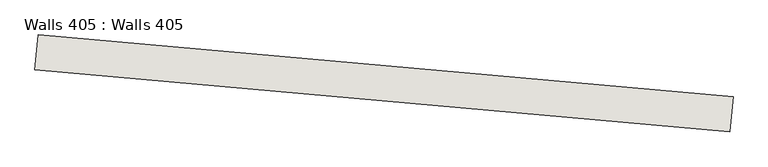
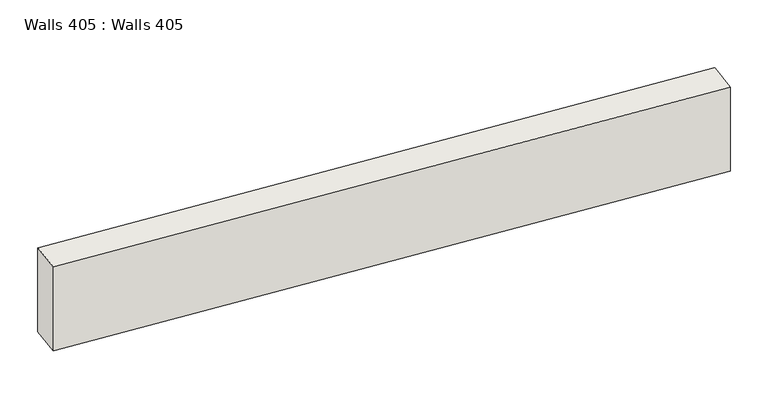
"""IFC4 building model written with IfcOpenShell, lengths in millimetres: wall geometry, Walls 405 : Walls 405."""

import ifcopenshell
import ifcopenshell.guid

model = None  # the IFC model being written
_history = None  # IfcOwnerHistory: only IFC2X3 demands one
_inside = {}  # id of a spatial element -> (the spatial element, [elements in it])
_under = {}  # id of a project, library or spatial element -> (it, [spatial elements below it])
_declared = {}  # id of a project -> (the project, [libraries it declares])
_typed = {}  # id of a type object -> (the type object, [elements of that type])
_made_of = {}  # id of a material, layer set ... -> (it, [elements and type objects made of it])


def new_model(schema):
    """Start an empty IFC model of exactly this schema.

    Asked for "IFC4X3", IfcOpenShell would pick the latest addendum, in which some entities
    have other attributes; the version numbers below select the first issue.
    IFC2X3 requires an IfcOwnerHistory on every rooted entity: one is made here for all.
    """
    global model, _history
    if schema == "IFC4X3":
        model = ifcopenshell.file(schema_version=(4, 3, 0, 0))
    else:
        model = ifcopenshell.file(schema=schema)
    _inside.clear()
    _under.clear()
    _declared.clear()
    _typed.clear()
    _made_of.clear()
    _history = None
    if model.schema == "IFC2X3":
        org = make("IfcOrganization", Name="unknown")
        user = make(
            "IfcPersonAndOrganization",
            ThePerson=make("IfcPerson", FamilyName="unknown"),
            TheOrganization=org,
        )
        app = make(
            "IfcApplication",
            ApplicationDeveloper=org,
            Version="unknown",
            ApplicationFullName="unknown",
            ApplicationIdentifier="unknown",
        )
        _history = make(
            "IfcOwnerHistory",
            OwningUser=user,
            OwningApplication=app,
            ChangeAction="ADDED",
            CreationDate=0,
        )
    return model


def make(cls, **values):
    """One entity of the class cls with the attributes given. An attribute that is None is left unset."""
    return model.create_entity(
        cls, **{name: value for name, value in values.items() if value is not None}
    )


def rooted(cls, **values):
    """An entity with a GlobalId (a new one), such as an element, a storey or a relation."""
    return make(cls, GlobalId=ifcopenshell.guid.new(), OwnerHistory=_history, **values)


def si_unit(unit_type, name, prefix=None):
    """IfcSIUnit, for example si_unit("LENGTHUNIT", "METRE", prefix="MILLI")."""
    return make("IfcSIUnit", UnitType=unit_type, Prefix=prefix, Name=name)


def assignment(units):
    """IfcUnitAssignment: the units of a project."""
    return None if units is None else make("IfcUnitAssignment", Units=units)


def point(xyz):
    """IfcCartesianPoint."""
    return None if xyz is None else make("IfcCartesianPoint", Coordinates=xyz)


def direction(xyz):
    """IfcDirection."""
    return None if xyz is None else make("IfcDirection", DirectionRatios=xyz)


def frame(location, z_axis=None, x_axis=None):
    """IfcAxis2Placement3D, a coordinate frame: its origin and axes. An axis left out is left unset."""
    return make(
        "IfcAxis2Placement3D",
        Location=point(location),
        Axis=direction(z_axis),
        RefDirection=direction(x_axis),
    )


def origin():
    """The frame at (0, 0, 0) with its axes left unset."""
    return frame((0.0, 0.0, 0.0))


def place(relative_to, where):
    """IfcLocalPlacement: puts the frame where relative to a parent placement (None: the world)."""
    return make(
        "IfcLocalPlacement", PlacementRelTo=relative_to, RelativePlacement=where
    )


def context(
    kind, dimensions, precision=None, world=None, true_north=None, identifier=None
):
    """IfcGeometricRepresentationContext, for example the 3D "Model" context."""
    return make(
        "IfcGeometricRepresentationContext",
        ContextIdentifier=identifier,
        ContextType=kind,
        CoordinateSpaceDimension=dimensions,
        Precision=precision,
        WorldCoordinateSystem=world,
        TrueNorth=true_north,
    )


def project(units=None, contexts=None):
    """IfcProject with its units and contexts."""
    return rooted(
        "IfcProject",
        Name="project",
        RepresentationContexts=contexts,
        UnitsInContext=assignment(units),
    )


def spatial(cls, under=None, at=None, **own):
    """A site, building, storey or space (cls), placed at a placement, below another one or the project."""
    s = rooted(cls, ObjectPlacement=at, **own)
    if under is not None:
        _under.setdefault(under.id(), (under, []))[1].append(s)
    return s


def polyline(points):
    """IfcPolyline through the points."""
    return make("IfcPolyline", Points=[point(p) for p in points])


def outline(outer, holes=None, kind="AREA"):
    """IfcArbitraryClosedProfileDef: a profile drawn as a closed curve; with holes, ...WithVoids."""
    if holes is None:
        return make("IfcArbitraryClosedProfileDef", ProfileType=kind, OuterCurve=outer)
    return make(
        "IfcArbitraryProfileDefWithVoids",
        ProfileType=kind,
        OuterCurve=outer,
        InnerCurves=holes,
    )


def extrude(swept, where, along, depth):
    """IfcExtrudedAreaSolid: the profile swept, set in the frame where, extruded along a direction by depth."""
    return make(
        "IfcExtrudedAreaSolid",
        SweptArea=swept,
        Position=where,
        ExtrudedDirection=direction(along),
        Depth=depth,
    )


def shape(context_of_items, identifier, shape_type, items):
    """IfcShapeRepresentation: the items that make up one representation, for example the "Body"."""
    return make(
        "IfcShapeRepresentation",
        ContextOfItems=context_of_items,
        RepresentationIdentifier=identifier,
        RepresentationType=shape_type,
        Items=items,
    )


def source(mapping_origin, context_of_items, identifier, shape_type, items):
    """IfcRepresentationMap: a shape defined once, which mapped items show again and again."""
    return make(
        "IfcRepresentationMap",
        MappingOrigin=mapping_origin,
        MappedRepresentation=shape(context_of_items, identifier, shape_type, items),
    )


def transform(
    local_origin,
    x_axis=None,
    y_axis=None,
    z_axis=None,
    scale=None,
    scale2=None,
    scale3=None,
    uniform=True,
):
    """IfcCartesianTransformationOperator3D, or its non-uniform kind. x_axis, y_axis, z_axis: its Axis1, 2, 3."""
    if uniform:
        return make(
            "IfcCartesianTransformationOperator3D",
            Axis1=direction(x_axis),
            Axis2=direction(y_axis),
            LocalOrigin=point(local_origin),
            Scale=scale,
            Axis3=direction(z_axis),
        )
    return make(
        "IfcCartesianTransformationOperator3DnonUniform",
        Axis1=direction(x_axis),
        Axis2=direction(y_axis),
        LocalOrigin=point(local_origin),
        Scale=scale,
        Axis3=direction(z_axis),
        Scale2=scale2,
        Scale3=scale3,
    )


def mapped(mapping_source, mapping_target):
    """IfcMappedItem: shows the shape of a source again, moved by a transform."""
    return make(
        "IfcMappedItem", MappingSource=mapping_source, MappingTarget=mapping_target
    )


def made_of(thing, what):
    """Note that an element or type object is made of a material, layer set ...; save() writes the relation."""
    if what is not None:
        _made_of.setdefault(what.id(), (what, []))[1].append(thing)
    return thing


def element(
    cls,
    number,
    at=None,
    inside=None,
    cuts=None,
    type_object=None,
    material=None,
    context=None,
    identifier="Body",
    shape_type=None,
    held_by="IfcProductDefinitionShape",
    body=None,
    shapes=None,
    **own,
):
    """One element of the class cls, such as IfcWall. Its Tag is "e" and its number.

    at: its placement. inside: the storey or other place that contains it. cuts: it is an
    opening in that element (IfcRelVoidsElement). A single representation is given by context,
    identifier, shape_type and body (its items); several are given by shapes. held_by: the class
    of the entity that holds the representations. save() writes the other relations.
    """
    e = rooted(cls, Tag="e%d" % number, ObjectPlacement=at, **own)
    if body is not None:
        shapes = [shape(context, identifier, shape_type, body)]
    if shapes is not None:
        e.Representation = make(held_by, Representations=shapes)
    if inside is not None:
        _inside.setdefault(inside.id(), (inside, []))[1].append(e)
    if cuts is not None:
        rooted(
            "IfcRelVoidsElement", RelatingBuildingElement=cuts, RelatedOpeningElement=e
        )
    if type_object is not None:
        _typed.setdefault(type_object.id(), (type_object, []))[1].append(e)
    return made_of(e, material)


def aggregate(whole, parts):
    """IfcRelAggregates: a whole, such as a stair, and the parts it consists of."""
    return rooted("IfcRelAggregates", RelatingObject=whole, RelatedObjects=parts)


def save(model, path):
    """Write the relations noted so far, then the file.

    IfcRelAggregates (storeys below a building ...), IfcRelContainedInSpatialStructure (elements
    in a storey), IfcRelDefinesByType, IfcRelAssociatesMaterial and IfcRelDeclares: one each for
    every whole, place, type object, material and project.
    """
    for whole, parts in _under.values():
        aggregate(whole, parts)
    for where, things in _inside.values():
        rooted(
            "IfcRelContainedInSpatialStructure",
            RelatedElements=things,
            RelatingStructure=where,
        )
    for kind, things in _typed.values():
        rooted("IfcRelDefinesByType", RelatedObjects=things, RelatingType=kind)
    for what, things in _made_of.values():
        rooted("IfcRelAssociatesMaterial", RelatedObjects=things, RelatingMaterial=what)
    for by, libraries in _declared.values():
        rooted("IfcRelDeclares", RelatingContext=by, RelatedDefinitions=libraries)
    model.write(path)


def walls_405_walls_405_eac411fc(model_context):
    return source(origin(), model_context, "Body", "SweptSolid", [
        extrude(outline(polyline([(-547138.5866393, -429935.01362), (-547174.0815693, -430333.4356449), (-555142.5220676, -429623.5370437), (-555107.0271375, -429225.1150188), (-547138.5866393, -429935.01362)])), frame((0.0, 0.0, 636860.0), z_axis=(0.0, 0.0, 1.0), x_axis=(1.0, 0.0, 0.0)), (0.0, 0.0, 1.0), 1100.0),
    ])


if __name__ == "__main__":
    model = new_model("IFC4")
    model_context = context("Model", 3, world=origin())
    ifc_project = project(units=[si_unit("LENGTHUNIT", "METRE", prefix="MILLI")], contexts=[model_context])
    site = spatial("IfcSite", under=ifc_project)
    building = spatial("IfcBuilding", under=site)
    placement = place(None, origin())
    walls_405_walls_405_shape = walls_405_walls_405_eac411fc(model_context)
    element("IfcWall", 1, ObjectType="Walls 405 : Walls 405", at=placement, inside=building, context=model_context, shape_type="MappedRepresentation", body=[
        mapped(walls_405_walls_405_shape, transform((0.0, 0.0, 0.0), x_axis=(1.0, 0.0, 0.0), y_axis=(0.0, 1.0, 0.0), z_axis=(0.0, 0.0, 1.0))),
    ])
    save(model, "model.ifc")
